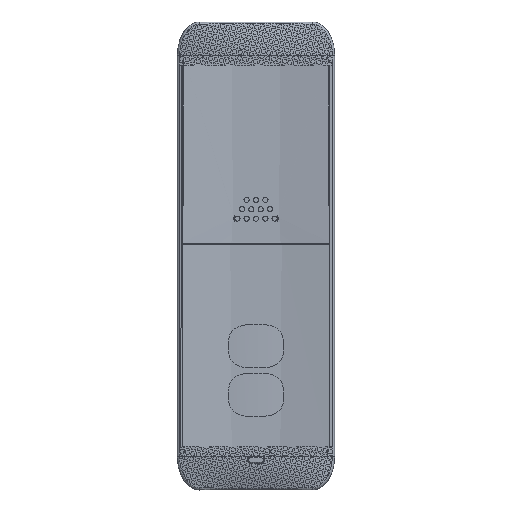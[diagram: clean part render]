
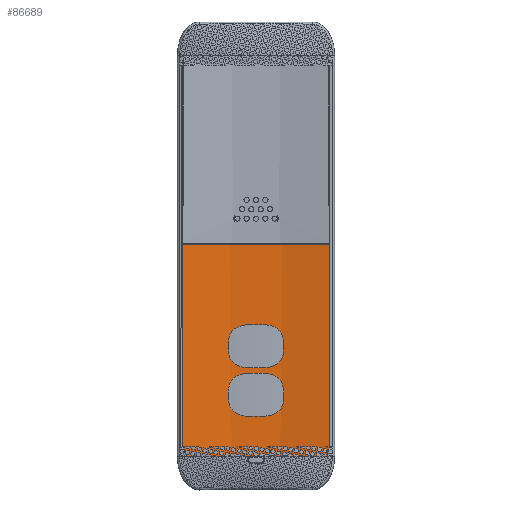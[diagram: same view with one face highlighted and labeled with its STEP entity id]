
A CAD part, top view. The second image highlights one B-rep face of the part: STEP entity #86689.
In plain terms, the highlighted cylindrical face has radius 100 mm (diameter 200 mm), a partial arc.
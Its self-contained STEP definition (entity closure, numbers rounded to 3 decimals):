
#33556=CARTESIAN_POINT('',(0.,3.1,93.));
#33557=DIRECTION('',(0.,-1.,0.));
#33558=DIRECTION('',(-0.204,0.,-0.979));
#33559=AXIS2_PLACEMENT_3D('',#33556,#33557,#33558);
#33561=DIRECTION('',(0.,1.,0.));
#33562=VECTOR('',#33561,56.6);
#33563=CARTESIAN_POINT('',(20.443,-53.5,
-4.888));
#33564=LINE('',#33563,#33562);
#33565=DIRECTION('',(0.,1.,0.));
#33566=VECTOR('',#33565,56.6);
#33567=CARTESIAN_POINT('',(-20.443,-53.5,
-4.888));
#33568=LINE('',#33567,#33566);
#33613=CARTESIAN_POINT('',(0.,-53.5,93.));
#33614=DIRECTION('',(0.,1.,0.));
#33615=DIRECTION('',(0.204,0.,-0.979));
#33616=AXIS2_PLACEMENT_3D('',#33613,#33614,#33615);
#33618=CARTESIAN_POINT('',(0.,-53.5,93.));
#33619=DIRECTION('',(0.,1.,0.));
#33620=DIRECTION('',(0.194,0.,-0.981));
#33621=AXIS2_PLACEMENT_3D('',#33618,#33619,#33620);
#33623=CARTESIAN_POINT('',(0.,-53.5,93.));
#33624=DIRECTION('',(0.,1.,0.));
#33625=DIRECTION('',(-0.194,0.,-0.981));
#33626=AXIS2_PLACEMENT_3D('',#33623,#33624,#33625);
#39032=CARTESIAN_POINT('',(20.443,3.1,-4.888));
#39034=VERTEX_POINT('',#39032);
#39046=CARTESIAN_POINT('',(-20.443,3.1,-4.888));
#39047=VERTEX_POINT('',#39046);
#39048=CARTESIAN_POINT('',(20.443,-53.5,
-4.888));
#39049=VERTEX_POINT('',#39048);
#39054=CARTESIAN_POINT('',(-20.443,-53.5,
-4.888));
#39055=VERTEX_POINT('',#39054);
#39058=CARTESIAN_POINT('',(19.388,-53.5,
-5.103));
#39059=VERTEX_POINT('',#39058);
#39060=CARTESIAN_POINT('',(-19.388,-53.5,-5.102));
#39061=VERTEX_POINT('',#39060);
#86672=CARTESIAN_POINT('',(0.,4.232,93.));
#86673=DIRECTION('',(0.,-1.,0.));
#86674=DIRECTION('',(1.,0.,0.));
#86675=AXIS2_PLACEMENT_3D('',#86672,#86673,#86674);
#86676=CYLINDRICAL_SURFACE('',#86675,100.);
#86677=ORIENTED_EDGE('',*,*,#86663,.T.);
#86678=ORIENTED_EDGE('',*,*,#86652,.F.);
#86680=ORIENTED_EDGE('',*,*,#86679,.F.);
#86682=ORIENTED_EDGE('',*,*,#86681,.F.);
#86684=ORIENTED_EDGE('',*,*,#86683,.F.);
#86686=ORIENTED_EDGE('',*,*,#86685,.F.);
#86687=EDGE_LOOP('',(#86677,#86678,#86680,#86682,#86684,#86686));
#86688=FACE_OUTER_BOUND('',#86687,.F.);
#86689=ADVANCED_FACE('',(#86688),#86676,.T.);
#33560=CIRCLE('',#33559,100.);
#33617=CIRCLE('',#33616,100.);
#33622=CIRCLE('',#33621,100.);
#33627=CIRCLE('',#33626,100.);
#86652=EDGE_CURVE('',#39047,#39034,#33560,.T.);
#86663=EDGE_CURVE('',#39049,#39034,#33564,.T.);
#86679=EDGE_CURVE('',#39055,#39047,#33568,.T.);
#86681=EDGE_CURVE('',#39061,#39055,#33627,.T.);
#86683=EDGE_CURVE('',#39059,#39061,#33622,.T.);
#86685=EDGE_CURVE('',#39049,#39059,#33617,.T.);
